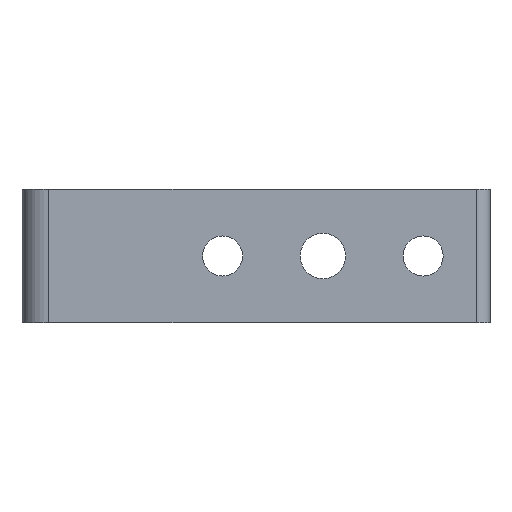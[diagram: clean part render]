
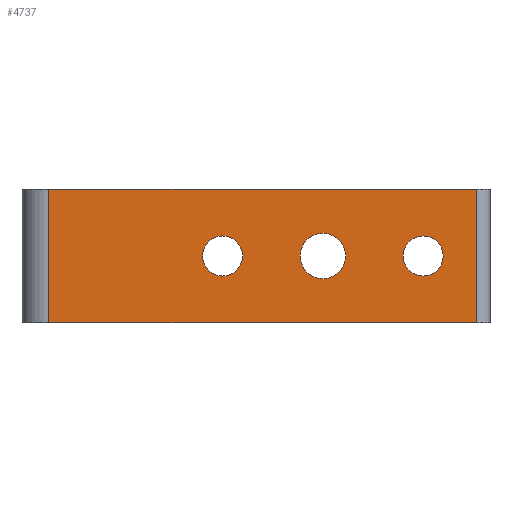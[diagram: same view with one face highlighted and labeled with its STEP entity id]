
A CAD part, front view. The second image highlights one B-rep face of the part: STEP entity #4737.
In plain terms, the highlighted planar face has unit normal (0, -1, 0).
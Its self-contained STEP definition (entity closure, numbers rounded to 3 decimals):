
#185 = DIRECTION ( 'NONE',  ( 1., 0., 0. ) ) ;
#815 = CARTESIAN_POINT ( 'NONE',  ( 60., 0., 3. ) ) ;
#1325 = AXIS2_PLACEMENT_3D ( 'NONE', #16617, #1430, #19201 ) ;
#1430 = DIRECTION ( 'NONE',  ( 0., -1., 0. ) ) ;
#2144 = EDGE_LOOP ( 'NONE', ( #25905, #8224 ) ) ;
#2504 = ORIENTED_EDGE ( 'NONE', *, *, #8198, .T. ) ;
#2658 = EDGE_CURVE ( 'NONE', #32404, #22375, #10305, .T. ) ;
#3405 = AXIS2_PLACEMENT_3D ( 'NONE', #27194, #11973, #29744 ) ;
#3766 = VECTOR ( 'NONE', #32166, 1000. ) ;
#4270 = DIRECTION ( 'NONE',  ( 0., -1., 0. ) ) ;
#4516 = AXIS2_PLACEMENT_3D ( 'NONE', #23638, #10951, #28708 ) ;
#4737 = ADVANCED_FACE ( 'NONE', ( #24276, #18317, #17515, #10749 ), #8383, .F. ) ;
#4880 = CARTESIAN_POINT ( 'NONE',  ( 4., 0., -10. ) ) ;
#5115 = ORIENTED_EDGE ( 'NONE', *, *, #27019, .F. ) ;
#5140 = EDGE_LOOP ( 'NONE', ( #5115, #30317 ) ) ;
#5817 = CIRCLE ( 'NONE', #19202, 3. ) ;
#6359 = LINE ( 'NONE', #30101, #19129 ) ;
#6629 = CARTESIAN_POINT ( 'NONE',  ( 68., 0., 10. ) ) ;
#6691 = EDGE_LOOP ( 'NONE', ( #23068, #8427, #25465, #2504 ) ) ;
#6922 = ORIENTED_EDGE ( 'NONE', *, *, #2658, .F. ) ;
#7302 = DIRECTION ( 'NONE',  ( 0., -1., 0. ) ) ;
#8198 = EDGE_CURVE ( 'NONE', #19595, #11310, #31129, .T. ) ;
#8224 = ORIENTED_EDGE ( 'NONE', *, *, #28137, .F. ) ;
#8383 = PLANE ( 'NONE',  #4516 ) ;
#8427 = ORIENTED_EDGE ( 'NONE', *, *, #17543, .T. ) ;
#8439 = VERTEX_POINT ( 'NONE', #24747 ) ;
#9659 = CARTESIAN_POINT ( 'NONE',  ( 45., 0., 0. ) ) ;
#9739 = ORIENTED_EDGE ( 'NONE', *, *, #21537, .F. ) ;
#9951 = AXIS2_PLACEMENT_3D ( 'NONE', #10551, #28308, #13100 ) ;
#10076 = EDGE_LOOP ( 'NONE', ( #9739, #6922 ) ) ;
#10305 = CIRCLE ( 'NONE', #3405, 3. ) ;
#10551 = CARTESIAN_POINT ( 'NONE',  ( 45., 0., 0. ) ) ;
#10563 = VERTEX_POINT ( 'NONE', #20886 ) ;
#10749 = FACE_BOUND ( 'NONE', #5140, .T. ) ;
#10866 = DIRECTION ( 'NONE',  ( 0., 0., -1. ) ) ;
#10951 = DIRECTION ( 'NONE',  ( 0., 1., 0. ) ) ;
#11310 = VERTEX_POINT ( 'NONE', #4880 ) ;
#11827 = AXIS2_PLACEMENT_3D ( 'NONE', #19542, #4270, #22090 ) ;
#11973 = DIRECTION ( 'NONE',  ( 0., -1., 0. ) ) ;
#12172 = EDGE_CURVE ( 'NONE', #21182, #15008, #13644, .T. ) ;
#12213 = DIRECTION ( 'NONE',  ( 0., 0., -1. ) ) ;
#12866 = VECTOR ( 'NONE', #185, 1000. ) ;
#13100 = DIRECTION ( 'NONE',  ( 0., 0., -1. ) ) ;
#13286 = CARTESIAN_POINT ( 'NONE',  ( 4., 0., 10. ) ) ;
#13527 = CIRCLE ( 'NONE', #9951, 3.4 ) ;
#13543 = CARTESIAN_POINT ( 'NONE',  ( 45., 0., 3.4 ) ) ;
#13644 = CIRCLE ( 'NONE', #11827, 3. ) ;
#15008 = VERTEX_POINT ( 'NONE', #815 ) ;
#15582 = VERTEX_POINT ( 'NONE', #6629 ) ;
#16617 = CARTESIAN_POINT ( 'NONE',  ( 30., 0., 0. ) ) ;
#16947 = CARTESIAN_POINT ( 'NONE',  ( 68., 0., 10. ) ) ;
#17056 = CIRCLE ( 'NONE', #1325, 3. ) ;
#17515 = FACE_OUTER_BOUND ( 'NONE', #6691, .T. ) ;
#17543 = EDGE_CURVE ( 'NONE', #10563, #15582, #30012, .T. ) ;
#18148 = CIRCLE ( 'NONE', #25156, 3.4 ) ;
#18317 = FACE_BOUND ( 'NONE', #2144, .T. ) ;
#19129 = VECTOR ( 'NONE', #32673, 1000. ) ;
#19201 = DIRECTION ( 'NONE',  ( 0., 0., -1. ) ) ;
#19202 = AXIS2_PLACEMENT_3D ( 'NONE', #22539, #7302, #25058 ) ;
#19542 = CARTESIAN_POINT ( 'NONE',  ( 60., 0., 0. ) ) ;
#19595 = VERTEX_POINT ( 'NONE', #13286 ) ;
#20886 = CARTESIAN_POINT ( 'NONE',  ( 68., 0., -10. ) ) ;
#21182 = VERTEX_POINT ( 'NONE', #22655 ) ;
#21537 = EDGE_CURVE ( 'NONE', #22375, #32404, #17056, .T. ) ;
#22090 = DIRECTION ( 'NONE',  ( 0., 0., -1. ) ) ;
#22375 = VERTEX_POINT ( 'NONE', #23567 ) ;
#22539 = CARTESIAN_POINT ( 'NONE',  ( 60., 0., 0. ) ) ;
#22655 = CARTESIAN_POINT ( 'NONE',  ( 60., 0., -3. ) ) ;
#23068 = ORIENTED_EDGE ( 'NONE', *, *, #26893, .T. ) ;
#23567 = CARTESIAN_POINT ( 'NONE',  ( 30., 0., -3. ) ) ;
#23607 = VERTEX_POINT ( 'NONE', #13543 ) ;
#23638 = CARTESIAN_POINT ( 'NONE',  ( 0., 0., 10. ) ) ;
#24276 = FACE_BOUND ( 'NONE', #10076, .T. ) ;
#24391 = VECTOR ( 'NONE', #10866, 1000. ) ;
#24747 = CARTESIAN_POINT ( 'NONE',  ( 45., 0., -3.4 ) ) ;
#25058 = DIRECTION ( 'NONE',  ( 0., 0., -1. ) ) ;
#25156 = AXIS2_PLACEMENT_3D ( 'NONE', #9659, #27415, #12213 ) ;
#25176 = EDGE_CURVE ( 'NONE', #19595, #15582, #32355, .T. ) ;
#25465 = ORIENTED_EDGE ( 'NONE', *, *, #25176, .F. ) ;
#25622 = CARTESIAN_POINT ( 'NONE',  ( 30., 0., 3. ) ) ;
#25645 = CARTESIAN_POINT ( 'NONE',  ( 4., 0., 10. ) ) ;
#25905 = ORIENTED_EDGE ( 'NONE', *, *, #12172, .F. ) ;
#26893 = EDGE_CURVE ( 'NONE', #11310, #10563, #6359, .T. ) ;
#27019 = EDGE_CURVE ( 'NONE', #8439, #23607, #13527, .T. ) ;
#27194 = CARTESIAN_POINT ( 'NONE',  ( 30., 0., 0. ) ) ;
#27415 = DIRECTION ( 'NONE',  ( 0., -1., 0. ) ) ;
#28137 = EDGE_CURVE ( 'NONE', #15008, #21182, #5817, .T. ) ;
#28308 = DIRECTION ( 'NONE',  ( 0., -1., 0. ) ) ;
#28708 = DIRECTION ( 'NONE',  ( 0., 0., 1. ) ) ;
#28912 = EDGE_CURVE ( 'NONE', #23607, #8439, #18148, .T. ) ;
#29744 = DIRECTION ( 'NONE',  ( 0., 0., -1. ) ) ;
#30012 = LINE ( 'NONE', #16947, #3766 ) ;
#30101 = CARTESIAN_POINT ( 'NONE',  ( 0., 0., -10. ) ) ;
#30317 = ORIENTED_EDGE ( 'NONE', *, *, #28912, .F. ) ;
#30579 = CARTESIAN_POINT ( 'NONE',  ( 0., 0., 10. ) ) ;
#31129 = LINE ( 'NONE', #25645, #24391 ) ;
#32166 = DIRECTION ( 'NONE',  ( 0., 0., 1. ) ) ;
#32355 = LINE ( 'NONE', #30579, #12866 ) ;
#32404 = VERTEX_POINT ( 'NONE', #25622 ) ;
#32673 = DIRECTION ( 'NONE',  ( 1., 0., 0. ) ) ;
